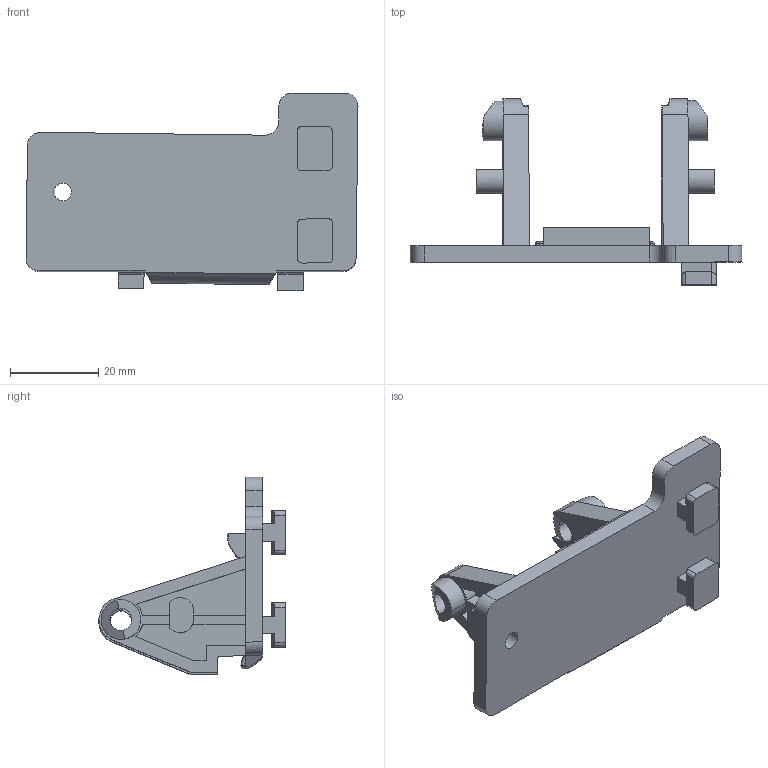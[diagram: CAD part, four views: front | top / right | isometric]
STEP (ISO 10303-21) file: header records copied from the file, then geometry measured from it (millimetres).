
FILE_DESCRIPTION(('CATIA V5 STEP Exchange'),'2;1');
FILE_NAME('E:\work-lee\1.项目工作\2、手柄类\阻尼手柄\修模数据\10档\SHT0012189-C.stp','2025-06-10T09:22:03+00:00',('none'),('none'),'CATIA Version 5 Release 20 GA (IN-10)','CATIA V5 STEP AP214','none');
FILE_SCHEMA(('AUTOMOTIVE_DESIGN { 1 0 10303 214 1 1 1 1 }'));
Length unit declared in the file: millimetre
Products named in the file (1): SHT0012189
Bounding box: 75.45 x 42.35 x 44.93 mm (x, y, z)
Volume: 15737.9 mm3; surface area: 11280.5 mm2
Topology: 1 solids, 1 shells, 204 faces, 610 edges, 407 vertices
Faces by surface type: plane 121, cylinder 68, bspline 9, torus 6
Entity records: 8631 total; most frequent: CARTESIAN_POINT 3366, ORIENTED_EDGE 1218, DIRECTION 885, EDGE_CURVE 609, VERTEX_POINT 407, VECTOR 400, LINE 400, AXIS2_PLACEMENT_3D 294
